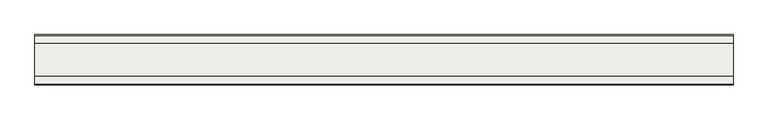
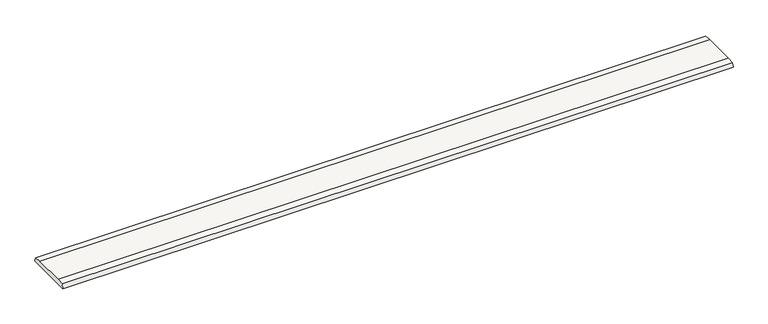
"""IFC4 building model written with IfcOpenShell, lengths in millimetres: slab geometry, ROSA GRES_I25_Inclinación : Pieza I25_Tresor_Java_Anti-Slip."""

from ifc_helpers import new_model, si_unit, point, frame, frame_2d, origin, place, context, project, spatial, polyline, circle_curve, trimmed, segment, composite_curve, outline, extrude, source, transform, mapped, element, save


def slab_f9d4bdbd(model_context):
    return source(origin(), model_context, "Body", "SweptSolid", [
        extrude(outline(composite_curve([segment(trimmed(circle_curve(frame_2d((-163.0982439, -695.1998883)), 721.556477), [point((-242.0848264, 22.0203494))], [point((-206.6448784, 25.0413492))], False, "CARTESIAN"), True, "CONTINUOUS"), segment(polyline([(-206.6448784, 25.0413492), (-42.7380732, 25.0413492)]), True, "CONTINUOUS"), segment(trimmed(circle_curve(frame_2d((-86.2847076, -695.1998883)), 721.556477), [point((-42.7380732, 25.0413492))], [point((-6.8503894, 21.9708993))], False, "CARTESIAN"), True, "CONTINUOUS"), segment(polyline([(-6.8503894, 21.9708993), (0.0, 0.0), (-248.9615625, 0.0), (-242.0848264, 22.0203494)]), True, "CONTINUOUS")], self_intersect=False)), frame((0.0, 0.0, 0.0), z_axis=(1.0, 0.0, 0.0), x_axis=(0.0, 1.0, 0.0)), (0.0, 0.0, 1.0), 3440.0),
    ])


if __name__ == "__main__":
    model = new_model("IFC4")
    model_context = context("Model", 3, world=origin())
    ifc_project = project(units=[si_unit("LENGTHUNIT", "METRE", prefix="MILLI")], contexts=[model_context])
    site = spatial("IfcSite", under=ifc_project)
    building = spatial("IfcBuilding", under=site)
    placement = place(None, origin())
    slab_shape = slab_f9d4bdbd(model_context)
    element("IfcSlab", 1, ObjectType="ROSA GRES_I25_Inclinación : Pieza I25_Tresor_Java_Anti-Slip", at=placement, inside=building, context=model_context, shape_type="MappedRepresentation", body=[
        mapped(slab_shape, transform((0.0, 0.0, 0.0), x_axis=(1.0, 0.0, 0.0), y_axis=(0.0, 1.0, 0.0), z_axis=(0.0, 0.0, 1.0))),
    ])
    save(model, "model.ifc")
